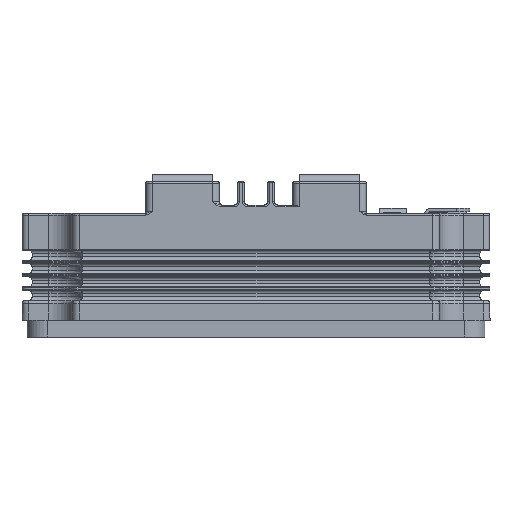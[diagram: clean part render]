
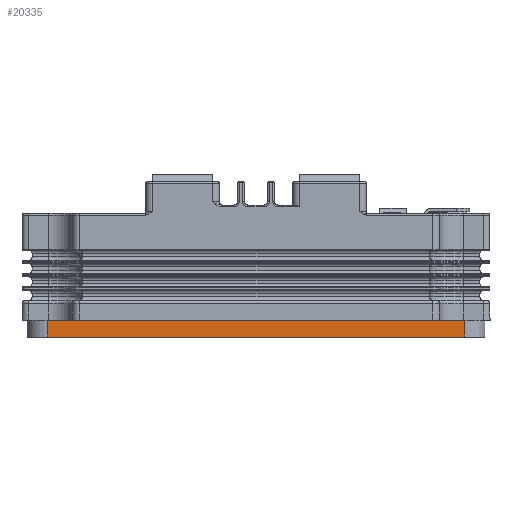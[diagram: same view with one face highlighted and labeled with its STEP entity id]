
A CAD part, left-side view. The second image highlights one B-rep face of the part: STEP entity #20335.
In plain terms, the highlighted planar face has unit normal (-1, 0, 0).
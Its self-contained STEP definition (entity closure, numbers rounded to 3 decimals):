
#10821 = DIRECTION ( 'NONE',  ( 0., -1., 0. ) ) ;
#10822 = VECTOR ( 'NONE', #10821, 1000. ) ;
#10826 = DIRECTION ( 'NONE',  ( 0., -1., 0. ) ) ;
#10827 = DIRECTION ( 'NONE',  ( -1., 0., 0. ) ) ;
#10828 = CARTESIAN_POINT ( 'NONE',  ( -93.45, 62.45, 5. ) ) ;
#10843 = PLANE ( 'NONE',  #10892 ) ;
#10844 = CARTESIAN_POINT ( 'NONE',  ( -93.45, 62.45, 5. ) ) ;
#10892 = AXIS2_PLACEMENT_3D ( 'NONE', #10828, #10827, #10826 ) ;
#10894 = DIRECTION ( 'NONE',  ( 0., 0., -1. ) ) ;
#10895 = VECTOR ( 'NONE', #10894, 1000. ) ;
#10897 = CARTESIAN_POINT ( 'NONE',  ( -93.45, 62.45, 5. ) ) ;
#10898 = LINE ( 'NONE', #10897, #10822 ) ;
#11015 = CARTESIAN_POINT ( 'NONE',  ( -93.45, -62.45, 5. ) ) ;
#11016 = LINE ( 'NONE', #11015, #10895 ) ;
#11018 = FACE_OUTER_BOUND ( 'NONE', #20324, .T. ) ;
#11153 = VECTOR ( 'NONE', #11192, 1000. ) ;
#11154 = CARTESIAN_POINT ( 'NONE',  ( -93.45, 62.45, 0. ) ) ;
#11188 = CARTESIAN_POINT ( 'NONE',  ( -93.45, 62.45, 0. ) ) ;
#11192 = DIRECTION ( 'NONE',  ( 0., -1., 0. ) ) ;
#11245 = CARTESIAN_POINT ( 'NONE',  ( -93.45, -62.45, 0. ) ) ;
#11246 = LINE ( 'NONE', #11154, #11153 ) ;
#11705 = CARTESIAN_POINT ( 'NONE',  ( -93.45, 54.849, 5. ) ) ;
#11709 = DIRECTION ( 'NONE',  ( 0., -1., 0. ) ) ;
#11710 = VECTOR ( 'NONE', #11709, 1000. ) ;
#11711 = CARTESIAN_POINT ( 'NONE',  ( -93.45, 62.45, 5. ) ) ;
#11717 = LINE ( 'NONE', #11711, #11710 ) ;
#11824 = DIRECTION ( 'NONE',  ( 0., 0., -1. ) ) ;
#11826 = DIRECTION ( 'NONE',  ( 0., -1., 0. ) ) ;
#11827 = VECTOR ( 'NONE', #11826, 1000. ) ;
#11829 = CARTESIAN_POINT ( 'NONE',  ( -93.45, 62.45, 5. ) ) ;
#11831 = LINE ( 'NONE', #11836, #11827 ) ;
#11836 = CARTESIAN_POINT ( 'NONE',  ( -93.45, 62.45, 5. ) ) ;
#11862 = VECTOR ( 'NONE', #11824, 1000. ) ;
#11867 = LINE ( 'NONE', #11829, #11862 ) ;
#11871 = CARTESIAN_POINT ( 'NONE',  ( -93.45, -54.849, 5. ) ) ;
#11904 = CARTESIAN_POINT ( 'NONE',  ( -93.45, -62.45, 5. ) ) ;
#20304 = EDGE_CURVE ( 'NONE', #20726, #20434, #11016, .T. ) ;
#20305 = ORIENTED_EDGE ( 'NONE', *, *, #20724, .F. ) ;
#20324 = EDGE_LOOP ( 'NONE', ( #20337, #20798, #20336, #20305, #20723, #20334 ) ) ;
#20330 = VERTEX_POINT ( 'NONE', #10844 ) ;
#20334 = ORIENTED_EDGE ( 'NONE', *, *, #20744, .T. ) ;
#20335 = ADVANCED_FACE ( 'NONE', ( #11018 ), #10843, .T. ) ;
#20336 = ORIENTED_EDGE ( 'NONE', *, *, #20338, .F. ) ;
#20337 = ORIENTED_EDGE ( 'NONE', *, *, #20433, .T. ) ;
#20338 = EDGE_CURVE ( 'NONE', #20729, #20726, #10898, .T. ) ;
#20433 = EDGE_CURVE ( 'NONE', #20440, #20434, #11246, .T. ) ;
#20434 = VERTEX_POINT ( 'NONE', #11245 ) ;
#20440 = VERTEX_POINT ( 'NONE', #11188 ) ;
#20723 = ORIENTED_EDGE ( 'NONE', *, *, #20742, .F. ) ;
#20724 = EDGE_CURVE ( 'NONE', #20728, #20729, #11717, .T. ) ;
#20726 = VERTEX_POINT ( 'NONE', #11904 ) ;
#20728 = VERTEX_POINT ( 'NONE', #11705 ) ;
#20729 = VERTEX_POINT ( 'NONE', #11871 ) ;
#20742 = EDGE_CURVE ( 'NONE', #20330, #20728, #11831, .T. ) ;
#20744 = EDGE_CURVE ( 'NONE', #20330, #20440, #11867, .T. ) ;
#20798 = ORIENTED_EDGE ( 'NONE', *, *, #20304, .F. ) ;
